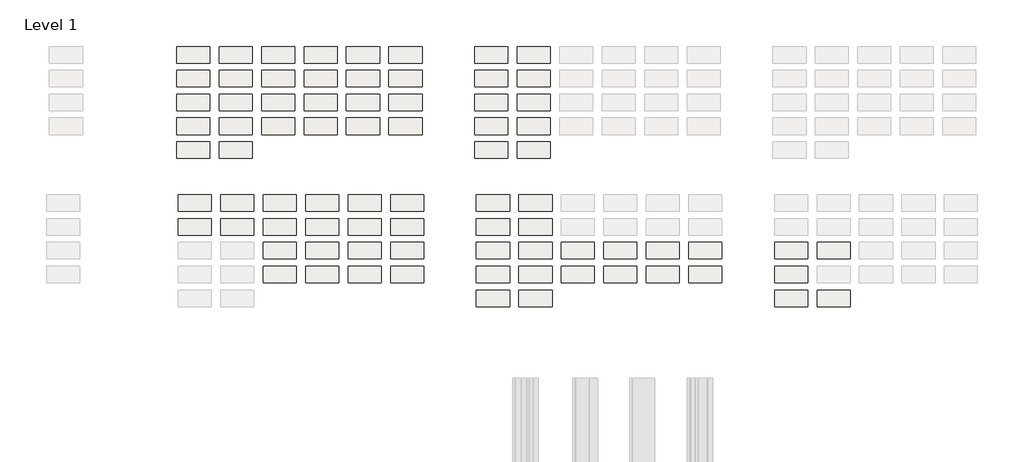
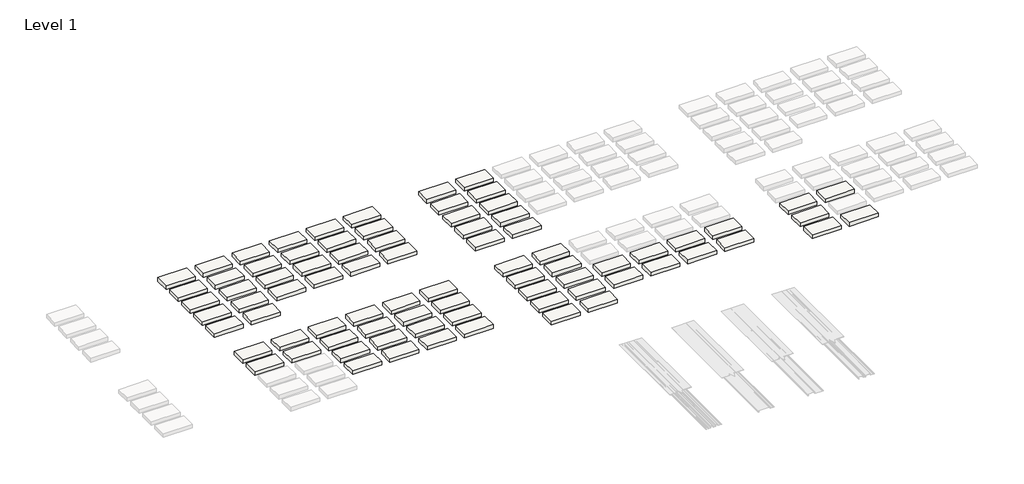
# One storey, part 2 of 3: 79 slabs.
"""IFC4 building model written with IfcOpenShell, lengths in millimetres."""

from ifc_helpers import new_model, si_unit, frame, origin, place, context, project, spatial, polyline, outline, extrude, element, save

model = new_model("IFC4")

# Units and contexts
model_context = context("Model", 3, world=origin())
ifc_project = project(units=[si_unit("LENGTHUNIT", "METRE", prefix="MILLI")], contexts=[model_context])

# Site, building, storey
site = spatial("IfcSite", under=ifc_project)
building = spatial("IfcBuilding", under=site)
storey = spatial("IfcBuildingStorey", under=building, Name="Level 1", Elevation=0.0)

# Slabs
placement = place(None, origin())
element("IfcSlab", 1, ObjectType="AEP Span Color Sample", at=placement, inside=storey, context=model_context, shape_type="SweptSolid", body=[
    extrude(outline(polyline([(1940.5339225, 7212.0976846), (1330.9339225, 7212.0976846), (1330.9339225, 7516.8976846), (1940.5339225, 7516.8976846), (1940.5339225, 7212.0976846)])), frame((0.0, 0.0, -79.375), z_axis=(0.0, 0.0, 1.0), x_axis=(1.0, 0.0, 0.0)), (0.0, 0.0, 1.0), 79.375),
])
element("IfcSlab", 2, ObjectType="AEP Span Color Sample", at=placement, inside=storey, context=model_context, shape_type="SweptSolid", body=[
    extrude(outline(polyline([(2721.5839225, 7212.0976846), (2111.9839225, 7212.0976846), (2111.9839225, 7516.8976846), (2721.5839225, 7516.8976846), (2721.5839225, 7212.0976846)])), frame((0.0, 0.0, -79.375), z_axis=(0.0, 0.0, 1.0), x_axis=(1.0, 0.0, 0.0)), (0.0, 0.0, 1.0), 79.375),
])
element("IfcSlab", 3, ObjectType="AEP Span Color Sample", at=placement, inside=storey, context=model_context, shape_type="SweptSolid", body=[
    extrude(outline(polyline([(3502.6339225, 7212.0976846), (2893.0339225, 7212.0976846), (2893.0339225, 7516.8976846), (3502.6339225, 7516.8976846), (3502.6339225, 7212.0976846)])), frame((0.0, 0.0, -79.375), z_axis=(0.0, 0.0, 1.0), x_axis=(1.0, 0.0, 0.0)), (0.0, 0.0, 1.0), 79.375),
])
element("IfcSlab", 4, ObjectType="AEP Span Color Sample", at=placement, inside=storey, context=model_context, shape_type="SweptSolid", body=[
    extrude(outline(polyline([(4283.6839225, 7212.0976846), (3674.0839225, 7212.0976846), (3674.0839225, 7516.8976846), (4283.6839225, 7516.8976846), (4283.6839225, 7212.0976846)])), frame((0.0, 0.0, -79.375), z_axis=(0.0, 0.0, 1.0), x_axis=(1.0, 0.0, 0.0)), (0.0, 0.0, 1.0), 79.375),
])
element("IfcSlab", 5, ObjectType="AEP Span Color Sample", at=placement, inside=storey, context=model_context, shape_type="SweptSolid", body=[
    extrude(outline(polyline([(5064.7339225, 7212.0976846), (4455.1339225, 7212.0976846), (4455.1339225, 7516.8976846), (5064.7339225, 7516.8976846), (5064.7339225, 7212.0976846)])), frame((0.0, 0.0, -79.375), z_axis=(0.0, 0.0, 1.0), x_axis=(1.0, 0.0, 0.0)), (0.0, 0.0, 1.0), 79.375),
])
element("IfcSlab", 6, ObjectType="AEP Span Color Sample", at=placement, inside=storey, context=model_context, shape_type="SweptSolid", body=[
    extrude(outline(polyline([(5845.7839225, 7212.0976846), (5236.1839225, 7212.0976846), (5236.1839225, 7516.8976846), (5845.7839225, 7516.8976846), (5845.7839225, 7212.0976846)])), frame((0.0, 0.0, -79.375), z_axis=(0.0, 0.0, 1.0), x_axis=(1.0, 0.0, 0.0)), (0.0, 0.0, 1.0), 79.375),
])
element("IfcSlab", 7, ObjectType="AEP Span Color Sample", at=placement, inside=storey, context=model_context, shape_type="SweptSolid", body=[
    extrude(outline(polyline([(1940.5339225, 6773.9476846), (1330.9339225, 6773.9476846), (1330.9339225, 7078.7476846), (1940.5339225, 7078.7476846), (1940.5339225, 6773.9476846)])), frame((0.0, 0.0, -79.375), z_axis=(0.0, 0.0, 1.0), x_axis=(1.0, 0.0, 0.0)), (0.0, 0.0, 1.0), 79.375),
])
element("IfcSlab", 8, ObjectType="AEP Span Color Sample", at=placement, inside=storey, context=model_context, shape_type="SweptSolid", body=[
    extrude(outline(polyline([(2721.5839225, 6773.9476846), (2111.9839225, 6773.9476846), (2111.9839225, 7078.7476846), (2721.5839225, 7078.7476846), (2721.5839225, 6773.9476846)])), frame((0.0, 0.0, -79.375), z_axis=(0.0, 0.0, 1.0), x_axis=(1.0, 0.0, 0.0)), (0.0, 0.0, 1.0), 79.375),
])
element("IfcSlab", 9, ObjectType="AEP Span Color Sample", at=placement, inside=storey, context=model_context, shape_type="SweptSolid", body=[
    extrude(outline(polyline([(3502.6339225, 6773.9476846), (2893.0339225, 6773.9476846), (2893.0339225, 7078.7476846), (3502.6339225, 7078.7476846), (3502.6339225, 6773.9476846)])), frame((0.0, 0.0, -79.375), z_axis=(0.0, 0.0, 1.0), x_axis=(1.0, 0.0, 0.0)), (0.0, 0.0, 1.0), 79.375),
])
element("IfcSlab", 10, ObjectType="AEP Span Color Sample", at=placement, inside=storey, context=model_context, shape_type="SweptSolid", body=[
    extrude(outline(polyline([(4283.6839225, 6773.9476846), (3674.0839225, 6773.9476846), (3674.0839225, 7078.7476846), (4283.6839225, 7078.7476846), (4283.6839225, 6773.9476846)])), frame((0.0, 0.0, -79.375), z_axis=(0.0, 0.0, 1.0), x_axis=(1.0, 0.0, 0.0)), (0.0, 0.0, 1.0), 79.375),
])
element("IfcSlab", 11, ObjectType="AEP Span Color Sample", at=placement, inside=storey, context=model_context, shape_type="SweptSolid", body=[
    extrude(outline(polyline([(5064.7339225, 6773.9476846), (4455.1339225, 6773.9476846), (4455.1339225, 7078.7476846), (5064.7339225, 7078.7476846), (5064.7339225, 6773.9476846)])), frame((0.0, 0.0, -79.375), z_axis=(0.0, 0.0, 1.0), x_axis=(1.0, 0.0, 0.0)), (0.0, 0.0, 1.0), 79.375),
])
element("IfcSlab", 12, ObjectType="AEP Span Color Sample", at=placement, inside=storey, context=model_context, shape_type="SweptSolid", body=[
    extrude(outline(polyline([(5845.7839225, 6773.9476846), (5236.1839225, 6773.9476846), (5236.1839225, 7078.7476846), (5845.7839225, 7078.7476846), (5845.7839225, 6773.9476846)])), frame((0.0, 0.0, -79.375), z_axis=(0.0, 0.0, 1.0), x_axis=(1.0, 0.0, 0.0)), (0.0, 0.0, 1.0), 79.375),
])
element("IfcSlab", 13, ObjectType="AEP Span Color Sample", at=placement, inside=storey, context=model_context, shape_type="SweptSolid", body=[
    extrude(outline(polyline([(1940.5339225, 6335.7976846), (1330.9339225, 6335.7976846), (1330.9339225, 6640.5976846), (1940.5339225, 6640.5976846), (1940.5339225, 6335.7976846)])), frame((0.0, 0.0, -79.375), z_axis=(0.0, 0.0, 1.0), x_axis=(1.0, 0.0, 0.0)), (0.0, 0.0, 1.0), 79.375),
])
element("IfcSlab", 14, ObjectType="AEP Span Color Sample", at=placement, inside=storey, context=model_context, shape_type="SweptSolid", body=[
    extrude(outline(polyline([(2721.5839225, 6335.7976846), (2111.9839225, 6335.7976846), (2111.9839225, 6640.5976846), (2721.5839225, 6640.5976846), (2721.5839225, 6335.7976846)])), frame((0.0, 0.0, -79.375), z_axis=(0.0, 0.0, 1.0), x_axis=(1.0, 0.0, 0.0)), (0.0, 0.0, 1.0), 79.375),
])
element("IfcSlab", 15, ObjectType="AEP Span Color Sample", at=placement, inside=storey, context=model_context, shape_type="SweptSolid", body=[
    extrude(outline(polyline([(3502.6339225, 6335.7976846), (2893.0339225, 6335.7976846), (2893.0339225, 6640.5976846), (3502.6339225, 6640.5976846), (3502.6339225, 6335.7976846)])), frame((0.0, 0.0, -79.375), z_axis=(0.0, 0.0, 1.0), x_axis=(1.0, 0.0, 0.0)), (0.0, 0.0, 1.0), 79.375),
])
element("IfcSlab", 16, ObjectType="AEP Span Color Sample", at=placement, inside=storey, context=model_context, shape_type="SweptSolid", body=[
    extrude(outline(polyline([(4283.6839225, 6335.7976846), (3674.0839225, 6335.7976846), (3674.0839225, 6640.5976846), (4283.6839225, 6640.5976846), (4283.6839225, 6335.7976846)])), frame((0.0, 0.0, -79.375), z_axis=(0.0, 0.0, 1.0), x_axis=(1.0, 0.0, 0.0)), (0.0, 0.0, 1.0), 79.375),
])
element("IfcSlab", 17, ObjectType="AEP Span Color Sample", at=placement, inside=storey, context=model_context, shape_type="SweptSolid", body=[
    extrude(outline(polyline([(5064.7339225, 6335.7976846), (4455.1339225, 6335.7976846), (4455.1339225, 6640.5976846), (5064.7339225, 6640.5976846), (5064.7339225, 6335.7976846)])), frame((0.0, 0.0, -79.375), z_axis=(0.0, 0.0, 1.0), x_axis=(1.0, 0.0, 0.0)), (0.0, 0.0, 1.0), 79.375),
])
element("IfcSlab", 18, ObjectType="AEP Span Color Sample", at=placement, inside=storey, context=model_context, shape_type="SweptSolid", body=[
    extrude(outline(polyline([(5845.7839225, 6335.7976846), (5236.1839225, 6335.7976846), (5236.1839225, 6640.5976846), (5845.7839225, 6640.5976846), (5845.7839225, 6335.7976846)])), frame((0.0, 0.0, -79.375), z_axis=(0.0, 0.0, 1.0), x_axis=(1.0, 0.0, 0.0)), (0.0, 0.0, 1.0), 79.375),
])
element("IfcSlab", 19, ObjectType="AEP Span Color Sample", at=placement, inside=storey, context=model_context, shape_type="SweptSolid", body=[
    extrude(outline(polyline([(1940.5339225, 5897.6476846), (1330.9339225, 5897.6476846), (1330.9339225, 6202.4476846), (1940.5339225, 6202.4476846), (1940.5339225, 5897.6476846)])), frame((0.0, 0.0, -79.375), z_axis=(0.0, 0.0, 1.0), x_axis=(1.0, 0.0, 0.0)), (0.0, 0.0, 1.0), 79.375),
])
element("IfcSlab", 20, ObjectType="AEP Span Color Sample", at=placement, inside=storey, context=model_context, shape_type="SweptSolid", body=[
    extrude(outline(polyline([(2721.5839225, 5897.6476846), (2111.9839225, 5897.6476846), (2111.9839225, 6202.4476846), (2721.5839225, 6202.4476846), (2721.5839225, 5897.6476846)])), frame((0.0, 0.0, -79.375), z_axis=(0.0, 0.0, 1.0), x_axis=(1.0, 0.0, 0.0)), (0.0, 0.0, 1.0), 79.375),
])
element("IfcSlab", 21, ObjectType="AEP Span Color Sample", at=placement, inside=storey, context=model_context, shape_type="SweptSolid", body=[
    extrude(outline(polyline([(3502.6339225, 5897.6476846), (2893.0339225, 5897.6476846), (2893.0339225, 6202.4476846), (3502.6339225, 6202.4476846), (3502.6339225, 5897.6476846)])), frame((0.0, 0.0, -79.375), z_axis=(0.0, 0.0, 1.0), x_axis=(1.0, 0.0, 0.0)), (0.0, 0.0, 1.0), 79.375),
])
element("IfcSlab", 22, ObjectType="AEP Span Color Sample", at=placement, inside=storey, context=model_context, shape_type="SweptSolid", body=[
    extrude(outline(polyline([(4283.6839225, 5897.6476846), (3674.0839225, 5897.6476846), (3674.0839225, 6202.4476846), (4283.6839225, 6202.4476846), (4283.6839225, 5897.6476846)])), frame((0.0, 0.0, -79.375), z_axis=(0.0, 0.0, 1.0), x_axis=(1.0, 0.0, 0.0)), (0.0, 0.0, 1.0), 79.375),
])
element("IfcSlab", 23, ObjectType="AEP Span Color Sample", at=placement, inside=storey, context=model_context, shape_type="SweptSolid", body=[
    extrude(outline(polyline([(5064.7339225, 5897.6476846), (4455.1339225, 5897.6476846), (4455.1339225, 6202.4476846), (5064.7339225, 6202.4476846), (5064.7339225, 5897.6476846)])), frame((0.0, 0.0, -79.375), z_axis=(0.0, 0.0, 1.0), x_axis=(1.0, 0.0, 0.0)), (0.0, 0.0, 1.0), 79.375),
])
element("IfcSlab", 24, ObjectType="AEP Span Color Sample", at=placement, inside=storey, context=model_context, shape_type="SweptSolid", body=[
    extrude(outline(polyline([(5845.7839225, 5897.6476846), (5236.1839225, 5897.6476846), (5236.1839225, 6202.4476846), (5845.7839225, 6202.4476846), (5845.7839225, 5897.6476846)])), frame((0.0, 0.0, -79.375), z_axis=(0.0, 0.0, 1.0), x_axis=(1.0, 0.0, 0.0)), (0.0, 0.0, 1.0), 79.375),
])
element("IfcSlab", 25, ObjectType="AEP Span Color Sample", at=placement, inside=storey, context=model_context, shape_type="SweptSolid", body=[
    extrude(outline(polyline([(1940.5339225, 5459.4976846), (1330.9339225, 5459.4976846), (1330.9339225, 5764.2976846), (1940.5339225, 5764.2976846), (1940.5339225, 5459.4976846)])), frame((0.0, 0.0, -79.375), z_axis=(0.0, 0.0, 1.0), x_axis=(1.0, 0.0, 0.0)), (0.0, 0.0, 1.0), 79.375),
])
element("IfcSlab", 26, ObjectType="AEP Span Color Sample", at=placement, inside=storey, context=model_context, shape_type="SweptSolid", body=[
    extrude(outline(polyline([(2721.5839225, 5459.4976846), (2111.9839225, 5459.4976846), (2111.9839225, 5764.2976846), (2721.5839225, 5764.2976846), (2721.5839225, 5459.4976846)])), frame((0.0, 0.0, -79.375), z_axis=(0.0, 0.0, 1.0), x_axis=(1.0, 0.0, 0.0)), (0.0, 0.0, 1.0), 79.375),
])
element("IfcSlab", 27, ObjectType="AEP Span Color Sample", at=placement, inside=storey, context=model_context, shape_type="SweptSolid", body=[
    extrude(outline(polyline([(7426.9339225, 7212.0976846), (6817.3339225, 7212.0976846), (6817.3339225, 7516.8976846), (7426.9339225, 7516.8976846), (7426.9339225, 7212.0976846)])), frame((0.0, 0.0, -79.375), z_axis=(0.0, 0.0, 1.0), x_axis=(1.0, 0.0, 0.0)), (0.0, 0.0, 1.0), 79.375),
])
element("IfcSlab", 28, ObjectType="AEP Span Color Sample", at=placement, inside=storey, context=model_context, shape_type="SweptSolid", body=[
    extrude(outline(polyline([(8207.9839225, 7212.0976846), (7598.3839225, 7212.0976846), (7598.3839225, 7516.8976846), (8207.9839225, 7516.8976846), (8207.9839225, 7212.0976846)])), frame((0.0, 0.0, -79.375), z_axis=(0.0, 0.0, 1.0), x_axis=(1.0, 0.0, 0.0)), (0.0, 0.0, 1.0), 79.375),
])
element("IfcSlab", 29, ObjectType="AEP Span Color Sample", at=placement, inside=storey, context=model_context, shape_type="SweptSolid", body=[
    extrude(outline(polyline([(7426.9339225, 6773.9476846), (6817.3339225, 6773.9476846), (6817.3339225, 7078.7476846), (7426.9339225, 7078.7476846), (7426.9339225, 6773.9476846)])), frame((0.0, 0.0, -79.375), z_axis=(0.0, 0.0, 1.0), x_axis=(1.0, 0.0, 0.0)), (0.0, 0.0, 1.0), 79.375),
])
element("IfcSlab", 30, ObjectType="AEP Span Color Sample", at=placement, inside=storey, context=model_context, shape_type="SweptSolid", body=[
    extrude(outline(polyline([(8207.9839225, 6773.9476846), (7598.3839225, 6773.9476846), (7598.3839225, 7078.7476846), (8207.9839225, 7078.7476846), (8207.9839225, 6773.9476846)])), frame((0.0, 0.0, -79.375), z_axis=(0.0, 0.0, 1.0), x_axis=(1.0, 0.0, 0.0)), (0.0, 0.0, 1.0), 79.375),
])
element("IfcSlab", 31, ObjectType="AEP Span Color Sample", at=placement, inside=storey, context=model_context, shape_type="SweptSolid", body=[
    extrude(outline(polyline([(7426.9339225, 6335.7976846), (6817.3339225, 6335.7976846), (6817.3339225, 6640.5976846), (7426.9339225, 6640.5976846), (7426.9339225, 6335.7976846)])), frame((0.0, 0.0, -79.375), z_axis=(0.0, 0.0, 1.0), x_axis=(1.0, 0.0, 0.0)), (0.0, 0.0, 1.0), 79.375),
])
element("IfcSlab", 32, ObjectType="AEP Span Color Sample", at=placement, inside=storey, context=model_context, shape_type="SweptSolid", body=[
    extrude(outline(polyline([(8207.9839225, 6335.7976846), (7598.3839225, 6335.7976846), (7598.3839225, 6640.5976846), (8207.9839225, 6640.5976846), (8207.9839225, 6335.7976846)])), frame((0.0, 0.0, -79.375), z_axis=(0.0, 0.0, 1.0), x_axis=(1.0, 0.0, 0.0)), (0.0, 0.0, 1.0), 79.375),
])
element("IfcSlab", 33, ObjectType="AEP Span Color Sample", at=placement, inside=storey, context=model_context, shape_type="SweptSolid", body=[
    extrude(outline(polyline([(7426.9339225, 5897.6476846), (6817.3339225, 5897.6476846), (6817.3339225, 6202.4476846), (7426.9339225, 6202.4476846), (7426.9339225, 5897.6476846)])), frame((0.0, 0.0, -79.375), z_axis=(0.0, 0.0, 1.0), x_axis=(1.0, 0.0, 0.0)), (0.0, 0.0, 1.0), 79.375),
])
element("IfcSlab", 34, ObjectType="AEP Span Color Sample", at=placement, inside=storey, context=model_context, shape_type="SweptSolid", body=[
    extrude(outline(polyline([(8207.9839225, 5897.6476846), (7598.3839225, 5897.6476846), (7598.3839225, 6202.4476846), (8207.9839225, 6202.4476846), (8207.9839225, 5897.6476846)])), frame((0.0, 0.0, -79.375), z_axis=(0.0, 0.0, 1.0), x_axis=(1.0, 0.0, 0.0)), (0.0, 0.0, 1.0), 79.375),
])
element("IfcSlab", 35, ObjectType="AEP Span Color Sample", at=placement, inside=storey, context=model_context, shape_type="SweptSolid", body=[
    extrude(outline(polyline([(7426.9339225, 5459.4976846), (6817.3339225, 5459.4976846), (6817.3339225, 5764.2976846), (7426.9339225, 5764.2976846), (7426.9339225, 5459.4976846)])), frame((0.0, 0.0, -79.375), z_axis=(0.0, 0.0, 1.0), x_axis=(1.0, 0.0, 0.0)), (0.0, 0.0, 1.0), 79.375),
])
element("IfcSlab", 36, ObjectType="AEP Span Color Sample", at=placement, inside=storey, context=model_context, shape_type="SweptSolid", body=[
    extrude(outline(polyline([(8207.9839225, 5459.4976846), (7598.3839225, 5459.4976846), (7598.3839225, 5764.2976846), (8207.9839225, 5764.2976846), (8207.9839225, 5459.4976846)])), frame((0.0, 0.0, -79.375), z_axis=(0.0, 0.0, 1.0), x_axis=(1.0, 0.0, 0.0)), (0.0, 0.0, 1.0), 79.375),
])
element("IfcSlab", 37, ObjectType="AEP Span Color Sample", at=placement, inside=storey, context=model_context, shape_type="SweptSolid", body=[
    extrude(outline(polyline([(1970.7268399, 4483.7993148), (1361.1268399, 4483.7993148), (1361.1268399, 4788.5993148), (1970.7268399, 4788.5993148), (1970.7268399, 4483.7993148)])), frame((0.0, 0.0, -79.375), z_axis=(0.0, 0.0, 1.0), x_axis=(1.0, 0.0, 0.0)), (0.0, 0.0, 1.0), 79.375),
])
element("IfcSlab", 38, ObjectType="AEP Span Color Sample", at=placement, inside=storey, context=model_context, shape_type="SweptSolid", body=[
    extrude(outline(polyline([(2751.7768399, 4483.7993148), (2142.1768399, 4483.7993148), (2142.1768399, 4788.5993148), (2751.7768399, 4788.5993148), (2751.7768399, 4483.7993148)])), frame((0.0, 0.0, -79.375), z_axis=(0.0, 0.0, 1.0), x_axis=(1.0, 0.0, 0.0)), (0.0, 0.0, 1.0), 79.375),
])
element("IfcSlab", 39, ObjectType="AEP Span Color Sample", at=placement, inside=storey, context=model_context, shape_type="SweptSolid", body=[
    extrude(outline(polyline([(3532.8268399, 4483.7993148), (2923.2268399, 4483.7993148), (2923.2268399, 4788.5993148), (3532.8268399, 4788.5993148), (3532.8268399, 4483.7993148)])), frame((0.0, 0.0, -79.375), z_axis=(0.0, 0.0, 1.0), x_axis=(1.0, 0.0, 0.0)), (0.0, 0.0, 1.0), 79.375),
])
element("IfcSlab", 40, ObjectType="AEP Span Color Sample", at=placement, inside=storey, context=model_context, shape_type="SweptSolid", body=[
    extrude(outline(polyline([(4313.8768399, 4483.7993148), (3704.2768399, 4483.7993148), (3704.2768399, 4788.5993148), (4313.8768399, 4788.5993148), (4313.8768399, 4483.7993148)])), frame((0.0, 0.0, -79.375), z_axis=(0.0, 0.0, 1.0), x_axis=(1.0, 0.0, 0.0)), (0.0, 0.0, 1.0), 79.375),
])
element("IfcSlab", 41, ObjectType="AEP Span Color Sample", at=placement, inside=storey, context=model_context, shape_type="SweptSolid", body=[
    extrude(outline(polyline([(5094.9268399, 4483.7993148), (4485.3268399, 4483.7993148), (4485.3268399, 4788.5993148), (5094.9268399, 4788.5993148), (5094.9268399, 4483.7993148)])), frame((0.0, 0.0, -79.375), z_axis=(0.0, 0.0, 1.0), x_axis=(1.0, 0.0, 0.0)), (0.0, 0.0, 1.0), 79.375),
])
element("IfcSlab", 42, ObjectType="AEP Span Color Sample", at=placement, inside=storey, context=model_context, shape_type="SweptSolid", body=[
    extrude(outline(polyline([(5875.9768399, 4483.7993148), (5266.3768399, 4483.7993148), (5266.3768399, 4788.5993148), (5875.9768399, 4788.5993148), (5875.9768399, 4483.7993148)])), frame((0.0, 0.0, -79.375), z_axis=(0.0, 0.0, 1.0), x_axis=(1.0, 0.0, 0.0)), (0.0, 0.0, 1.0), 79.375),
])
element("IfcSlab", 43, ObjectType="AEP Span Color Sample", at=placement, inside=storey, context=model_context, shape_type="SweptSolid", body=[
    extrude(outline(polyline([(1970.7268399, 4045.6493148), (1361.1268399, 4045.6493148), (1361.1268399, 4350.4493148), (1970.7268399, 4350.4493148), (1970.7268399, 4045.6493148)])), frame((0.0, 0.0, -79.375), z_axis=(0.0, 0.0, 1.0), x_axis=(1.0, 0.0, 0.0)), (0.0, 0.0, 1.0), 79.375),
])
element("IfcSlab", 44, ObjectType="AEP Span Color Sample", at=placement, inside=storey, context=model_context, shape_type="SweptSolid", body=[
    extrude(outline(polyline([(2751.7768399, 4045.6493148), (2142.1768399, 4045.6493148), (2142.1768399, 4350.4493148), (2751.7768399, 4350.4493148), (2751.7768399, 4045.6493148)])), frame((0.0, 0.0, -79.375), z_axis=(0.0, 0.0, 1.0), x_axis=(1.0, 0.0, 0.0)), (0.0, 0.0, 1.0), 79.375),
])
element("IfcSlab", 45, ObjectType="AEP Span Color Sample", at=placement, inside=storey, context=model_context, shape_type="SweptSolid", body=[
    extrude(outline(polyline([(3532.8268399, 4045.6493148), (2923.2268399, 4045.6493148), (2923.2268399, 4350.4493148), (3532.8268399, 4350.4493148), (3532.8268399, 4045.6493148)])), frame((0.0, 0.0, -79.375), z_axis=(0.0, 0.0, 1.0), x_axis=(1.0, 0.0, 0.0)), (0.0, 0.0, 1.0), 79.375),
])
element("IfcSlab", 46, ObjectType="AEP Span Color Sample", at=placement, inside=storey, context=model_context, shape_type="SweptSolid", body=[
    extrude(outline(polyline([(4313.8768399, 4045.6493148), (3704.2768399, 4045.6493148), (3704.2768399, 4350.4493148), (4313.8768399, 4350.4493148), (4313.8768399, 4045.6493148)])), frame((0.0, 0.0, -79.375), z_axis=(0.0, 0.0, 1.0), x_axis=(1.0, 0.0, 0.0)), (0.0, 0.0, 1.0), 79.375),
])
element("IfcSlab", 47, ObjectType="AEP Span Color Sample", at=placement, inside=storey, context=model_context, shape_type="SweptSolid", body=[
    extrude(outline(polyline([(5094.9268399, 4045.6493148), (4485.3268399, 4045.6493148), (4485.3268399, 4350.4493148), (5094.9268399, 4350.4493148), (5094.9268399, 4045.6493148)])), frame((0.0, 0.0, -79.375), z_axis=(0.0, 0.0, 1.0), x_axis=(1.0, 0.0, 0.0)), (0.0, 0.0, 1.0), 79.375),
])
element("IfcSlab", 48, ObjectType="AEP Span Color Sample", at=placement, inside=storey, context=model_context, shape_type="SweptSolid", body=[
    extrude(outline(polyline([(5875.9768399, 4045.6493148), (5266.3768399, 4045.6493148), (5266.3768399, 4350.4493148), (5875.9768399, 4350.4493148), (5875.9768399, 4045.6493148)])), frame((0.0, 0.0, -79.375), z_axis=(0.0, 0.0, 1.0), x_axis=(1.0, 0.0, 0.0)), (0.0, 0.0, 1.0), 79.375),
])
element("IfcSlab", 49, ObjectType="AEP Span Color Sample", at=placement, inside=storey, context=model_context, shape_type="SweptSolid", body=[
    extrude(outline(polyline([(3532.8268399, 3607.4993148), (2923.2268399, 3607.4993148), (2923.2268399, 3912.2993148), (3532.8268399, 3912.2993148), (3532.8268399, 3607.4993148)])), frame((0.0, 0.0, -79.375), z_axis=(0.0, 0.0, 1.0), x_axis=(1.0, 0.0, 0.0)), (0.0, 0.0, 1.0), 79.375),
])
element("IfcSlab", 50, ObjectType="AEP Span Color Sample", at=placement, inside=storey, context=model_context, shape_type="SweptSolid", body=[
    extrude(outline(polyline([(4313.8768399, 3607.4993148), (3704.2768399, 3607.4993148), (3704.2768399, 3912.2993148), (4313.8768399, 3912.2993148), (4313.8768399, 3607.4993148)])), frame((0.0, 0.0, -79.375), z_axis=(0.0, 0.0, 1.0), x_axis=(1.0, 0.0, 0.0)), (0.0, 0.0, 1.0), 79.375),
])
element("IfcSlab", 51, ObjectType="AEP Span Color Sample", at=placement, inside=storey, context=model_context, shape_type="SweptSolid", body=[
    extrude(outline(polyline([(5094.9268399, 3607.4993148), (4485.3268399, 3607.4993148), (4485.3268399, 3912.2993148), (5094.9268399, 3912.2993148), (5094.9268399, 3607.4993148)])), frame((0.0, 0.0, -79.375), z_axis=(0.0, 0.0, 1.0), x_axis=(1.0, 0.0, 0.0)), (0.0, 0.0, 1.0), 79.375),
])
element("IfcSlab", 52, ObjectType="AEP Span Color Sample", at=placement, inside=storey, context=model_context, shape_type="SweptSolid", body=[
    extrude(outline(polyline([(5875.9768399, 3607.4993148), (5266.3768399, 3607.4993148), (5266.3768399, 3912.2993148), (5875.9768399, 3912.2993148), (5875.9768399, 3607.4993148)])), frame((0.0, 0.0, -79.375), z_axis=(0.0, 0.0, 1.0), x_axis=(1.0, 0.0, 0.0)), (0.0, 0.0, 1.0), 79.375),
])
element("IfcSlab", 53, ObjectType="AEP Span Color Sample", at=placement, inside=storey, context=model_context, shape_type="SweptSolid", body=[
    extrude(outline(polyline([(3532.8268399, 3169.3493148), (2923.2268399, 3169.3493148), (2923.2268399, 3474.1493148), (3532.8268399, 3474.1493148), (3532.8268399, 3169.3493148)])), frame((0.0, 0.0, -79.375), z_axis=(0.0, 0.0, 1.0), x_axis=(1.0, 0.0, 0.0)), (0.0, 0.0, 1.0), 79.375),
])
element("IfcSlab", 54, ObjectType="AEP Span Color Sample", at=placement, inside=storey, context=model_context, shape_type="SweptSolid", body=[
    extrude(outline(polyline([(4313.8768399, 3169.3493148), (3704.2768399, 3169.3493148), (3704.2768399, 3474.1493148), (4313.8768399, 3474.1493148), (4313.8768399, 3169.3493148)])), frame((0.0, 0.0, -79.375), z_axis=(0.0, 0.0, 1.0), x_axis=(1.0, 0.0, 0.0)), (0.0, 0.0, 1.0), 79.375),
])
element("IfcSlab", 55, ObjectType="AEP Span Color Sample", at=placement, inside=storey, context=model_context, shape_type="SweptSolid", body=[
    extrude(outline(polyline([(5094.9268399, 3169.3493148), (4485.3268399, 3169.3493148), (4485.3268399, 3474.1493148), (5094.9268399, 3474.1493148), (5094.9268399, 3169.3493148)])), frame((0.0, 0.0, -79.375), z_axis=(0.0, 0.0, 1.0), x_axis=(1.0, 0.0, 0.0)), (0.0, 0.0, 1.0), 79.375),
])
element("IfcSlab", 56, ObjectType="AEP Span Color Sample", at=placement, inside=storey, context=model_context, shape_type="SweptSolid", body=[
    extrude(outline(polyline([(5875.9768399, 3169.3493148), (5266.3768399, 3169.3493148), (5266.3768399, 3474.1493148), (5875.9768399, 3474.1493148), (5875.9768399, 3169.3493148)])), frame((0.0, 0.0, -79.375), z_axis=(0.0, 0.0, 1.0), x_axis=(1.0, 0.0, 0.0)), (0.0, 0.0, 1.0), 79.375),
])
element("IfcSlab", 57, ObjectType="AEP Span Color Sample", at=placement, inside=storey, context=model_context, shape_type="SweptSolid", body=[
    extrude(outline(polyline([(7457.1268399, 4483.7993148), (6847.5268399, 4483.7993148), (6847.5268399, 4788.5993148), (7457.1268399, 4788.5993148), (7457.1268399, 4483.7993148)])), frame((0.0, 0.0, -79.375), z_axis=(0.0, 0.0, 1.0), x_axis=(1.0, 0.0, 0.0)), (0.0, 0.0, 1.0), 79.375),
])
element("IfcSlab", 58, ObjectType="AEP Span Color Sample", at=placement, inside=storey, context=model_context, shape_type="SweptSolid", body=[
    extrude(outline(polyline([(8238.1768399, 4483.7993148), (7628.5768399, 4483.7993148), (7628.5768399, 4788.5993148), (8238.1768399, 4788.5993148), (8238.1768399, 4483.7993148)])), frame((0.0, 0.0, -79.375), z_axis=(0.0, 0.0, 1.0), x_axis=(1.0, 0.0, 0.0)), (0.0, 0.0, 1.0), 79.375),
])
element("IfcSlab", 59, ObjectType="AEP Span Color Sample", at=placement, inside=storey, context=model_context, shape_type="SweptSolid", body=[
    extrude(outline(polyline([(7457.1268399, 4045.6493148), (6847.5268399, 4045.6493148), (6847.5268399, 4350.4493148), (7457.1268399, 4350.4493148), (7457.1268399, 4045.6493148)])), frame((0.0, 0.0, -79.375), z_axis=(0.0, 0.0, 1.0), x_axis=(1.0, 0.0, 0.0)), (0.0, 0.0, 1.0), 79.375),
])
element("IfcSlab", 60, ObjectType="AEP Span Color Sample", at=placement, inside=storey, context=model_context, shape_type="SweptSolid", body=[
    extrude(outline(polyline([(8238.1768399, 4045.6493148), (7628.5768399, 4045.6493148), (7628.5768399, 4350.4493148), (8238.1768399, 4350.4493148), (8238.1768399, 4045.6493148)])), frame((0.0, 0.0, -79.375), z_axis=(0.0, 0.0, 1.0), x_axis=(1.0, 0.0, 0.0)), (0.0, 0.0, 1.0), 79.375),
])
element("IfcSlab", 61, ObjectType="AEP Span Color Sample", at=placement, inside=storey, context=model_context, shape_type="SweptSolid", body=[
    extrude(outline(polyline([(7457.1268399, 3607.4993148), (6847.5268399, 3607.4993148), (6847.5268399, 3912.2993148), (7457.1268399, 3912.2993148), (7457.1268399, 3607.4993148)])), frame((0.0, 0.0, -79.375), z_axis=(0.0, 0.0, 1.0), x_axis=(1.0, 0.0, 0.0)), (0.0, 0.0, 1.0), 79.375),
])
element("IfcSlab", 62, ObjectType="AEP Span Color Sample", at=placement, inside=storey, context=model_context, shape_type="SweptSolid", body=[
    extrude(outline(polyline([(8238.1768399, 3607.4993148), (7628.5768399, 3607.4993148), (7628.5768399, 3912.2993148), (8238.1768399, 3912.2993148), (8238.1768399, 3607.4993148)])), frame((0.0, 0.0, -79.375), z_axis=(0.0, 0.0, 1.0), x_axis=(1.0, 0.0, 0.0)), (0.0, 0.0, 1.0), 79.375),
])
element("IfcSlab", 63, ObjectType="AEP Span Color Sample", at=placement, inside=storey, context=model_context, shape_type="SweptSolid", body=[
    extrude(outline(polyline([(9019.2268399, 3607.4993148), (8409.6268399, 3607.4993148), (8409.6268399, 3912.2993148), (9019.2268399, 3912.2993148), (9019.2268399, 3607.4993148)])), frame((0.0, 0.0, -79.375), z_axis=(0.0, 0.0, 1.0), x_axis=(1.0, 0.0, 0.0)), (0.0, 0.0, 1.0), 79.375),
])
element("IfcSlab", 64, ObjectType="AEP Span Color Sample", at=placement, inside=storey, context=model_context, shape_type="SweptSolid", body=[
    extrude(outline(polyline([(9800.2768399, 3607.4993148), (9190.6768399, 3607.4993148), (9190.6768399, 3912.2993148), (9800.2768399, 3912.2993148), (9800.2768399, 3607.4993148)])), frame((0.0, 0.0, -79.375), z_axis=(0.0, 0.0, 1.0), x_axis=(1.0, 0.0, 0.0)), (0.0, 0.0, 1.0), 79.375),
])
element("IfcSlab", 65, ObjectType="AEP Span Color Sample", at=placement, inside=storey, context=model_context, shape_type="SweptSolid", body=[
    extrude(outline(polyline([(10581.3268399, 3607.4993148), (9971.7268399, 3607.4993148), (9971.7268399, 3912.2993148), (10581.3268399, 3912.2993148), (10581.3268399, 3607.4993148)])), frame((0.0, 0.0, -79.375), z_axis=(0.0, 0.0, 1.0), x_axis=(1.0, 0.0, 0.0)), (0.0, 0.0, 1.0), 79.375),
])
element("IfcSlab", 66, ObjectType="AEP Span Color Sample", at=placement, inside=storey, context=model_context, shape_type="SweptSolid", body=[
    extrude(outline(polyline([(11362.3768399, 3607.4993148), (10752.7768399, 3607.4993148), (10752.7768399, 3912.2993148), (11362.3768399, 3912.2993148), (11362.3768399, 3607.4993148)])), frame((0.0, 0.0, -79.375), z_axis=(0.0, 0.0, 1.0), x_axis=(1.0, 0.0, 0.0)), (0.0, 0.0, 1.0), 79.375),
])
element("IfcSlab", 67, ObjectType="AEP Span Color Sample", at=placement, inside=storey, context=model_context, shape_type="SweptSolid", body=[
    extrude(outline(polyline([(7457.1268399, 3169.3493148), (6847.5268399, 3169.3493148), (6847.5268399, 3474.1493148), (7457.1268399, 3474.1493148), (7457.1268399, 3169.3493148)])), frame((0.0, 0.0, -79.375), z_axis=(0.0, 0.0, 1.0), x_axis=(1.0, 0.0, 0.0)), (0.0, 0.0, 1.0), 79.375),
])
element("IfcSlab", 68, ObjectType="AEP Span Color Sample", at=placement, inside=storey, context=model_context, shape_type="SweptSolid", body=[
    extrude(outline(polyline([(8238.1768399, 3169.3493148), (7628.5768399, 3169.3493148), (7628.5768399, 3474.1493148), (8238.1768399, 3474.1493148), (8238.1768399, 3169.3493148)])), frame((0.0, 0.0, -79.375), z_axis=(0.0, 0.0, 1.0), x_axis=(1.0, 0.0, 0.0)), (0.0, 0.0, 1.0), 79.375),
])
element("IfcSlab", 69, ObjectType="AEP Span Color Sample", at=placement, inside=storey, context=model_context, shape_type="SweptSolid", body=[
    extrude(outline(polyline([(9019.2268399, 3169.3493148), (8409.6268399, 3169.3493148), (8409.6268399, 3474.1493148), (9019.2268399, 3474.1493148), (9019.2268399, 3169.3493148)])), frame((0.0, 0.0, -79.375), z_axis=(0.0, 0.0, 1.0), x_axis=(1.0, 0.0, 0.0)), (0.0, 0.0, 1.0), 79.375),
])
element("IfcSlab", 70, ObjectType="AEP Span Color Sample", at=placement, inside=storey, context=model_context, shape_type="SweptSolid", body=[
    extrude(outline(polyline([(9800.2768399, 3169.3493148), (9190.6768399, 3169.3493148), (9190.6768399, 3474.1493148), (9800.2768399, 3474.1493148), (9800.2768399, 3169.3493148)])), frame((0.0, 0.0, -79.375), z_axis=(0.0, 0.0, 1.0), x_axis=(1.0, 0.0, 0.0)), (0.0, 0.0, 1.0), 79.375),
])
element("IfcSlab", 71, ObjectType="AEP Span Color Sample", at=placement, inside=storey, context=model_context, shape_type="SweptSolid", body=[
    extrude(outline(polyline([(10581.3268399, 3169.3493148), (9971.7268399, 3169.3493148), (9971.7268399, 3474.1493148), (10581.3268399, 3474.1493148), (10581.3268399, 3169.3493148)])), frame((0.0, 0.0, -79.375), z_axis=(0.0, 0.0, 1.0), x_axis=(1.0, 0.0, 0.0)), (0.0, 0.0, 1.0), 79.375),
])
element("IfcSlab", 72, ObjectType="AEP Span Color Sample", at=placement, inside=storey, context=model_context, shape_type="SweptSolid", body=[
    extrude(outline(polyline([(11362.3768399, 3169.3493148), (10752.7768399, 3169.3493148), (10752.7768399, 3474.1493148), (11362.3768399, 3474.1493148), (11362.3768399, 3169.3493148)])), frame((0.0, 0.0, -79.375), z_axis=(0.0, 0.0, 1.0), x_axis=(1.0, 0.0, 0.0)), (0.0, 0.0, 1.0), 79.375),
])
element("IfcSlab", 73, ObjectType="AEP Span Color Sample", at=placement, inside=storey, context=model_context, shape_type="SweptSolid", body=[
    extrude(outline(polyline([(7457.1268399, 2731.1993148), (6847.5268399, 2731.1993148), (6847.5268399, 3035.9993148), (7457.1268399, 3035.9993148), (7457.1268399, 2731.1993148)])), frame((0.0, 0.0, -79.375), z_axis=(0.0, 0.0, 1.0), x_axis=(1.0, 0.0, 0.0)), (0.0, 0.0, 1.0), 79.375),
])
element("IfcSlab", 74, ObjectType="AEP Span Color Sample", at=placement, inside=storey, context=model_context, shape_type="SweptSolid", body=[
    extrude(outline(polyline([(8238.1768399, 2731.1993148), (7628.5768399, 2731.1993148), (7628.5768399, 3035.9993148), (8238.1768399, 3035.9993148), (8238.1768399, 2731.1993148)])), frame((0.0, 0.0, -79.375), z_axis=(0.0, 0.0, 1.0), x_axis=(1.0, 0.0, 0.0)), (0.0, 0.0, 1.0), 79.375),
])
element("IfcSlab", 75, ObjectType="AEP Span Color Sample", at=placement, inside=storey, context=model_context, shape_type="SweptSolid", body=[
    extrude(outline(polyline([(12943.5268399, 3607.4993148), (12333.9268399, 3607.4993148), (12333.9268399, 3912.2993148), (12943.5268399, 3912.2993148), (12943.5268399, 3607.4993148)])), frame((0.0, 0.0, -79.375), z_axis=(0.0, 0.0, 1.0), x_axis=(1.0, 0.0, 0.0)), (0.0, 0.0, 1.0), 79.375),
])
element("IfcSlab", 76, ObjectType="AEP Span Color Sample", at=placement, inside=storey, context=model_context, shape_type="SweptSolid", body=[
    extrude(outline(polyline([(13724.5768399, 3607.4993148), (13114.9768399, 3607.4993148), (13114.9768399, 3912.2993148), (13724.5768399, 3912.2993148), (13724.5768399, 3607.4993148)])), frame((0.0, 0.0, -79.375), z_axis=(0.0, 0.0, 1.0), x_axis=(1.0, 0.0, 0.0)), (0.0, 0.0, 1.0), 79.375),
])
element("IfcSlab", 77, ObjectType="AEP Span Color Sample", at=placement, inside=storey, context=model_context, shape_type="SweptSolid", body=[
    extrude(outline(polyline([(12943.5268399, 3169.3493148), (12333.9268399, 3169.3493148), (12333.9268399, 3474.1493148), (12943.5268399, 3474.1493148), (12943.5268399, 3169.3493148)])), frame((0.0, 0.0, -79.375), z_axis=(0.0, 0.0, 1.0), x_axis=(1.0, 0.0, 0.0)), (0.0, 0.0, 1.0), 79.375),
])
element("IfcSlab", 78, ObjectType="AEP Span Color Sample", at=placement, inside=storey, context=model_context, shape_type="SweptSolid", body=[
    extrude(outline(polyline([(12943.5268399, 2731.1993148), (12333.9268399, 2731.1993148), (12333.9268399, 3035.9993148), (12943.5268399, 3035.9993148), (12943.5268399, 2731.1993148)])), frame((0.0, 0.0, -79.375), z_axis=(0.0, 0.0, 1.0), x_axis=(1.0, 0.0, 0.0)), (0.0, 0.0, 1.0), 79.375),
])
element("IfcSlab", 79, ObjectType="AEP Span Color Sample", at=placement, inside=storey, context=model_context, shape_type="SweptSolid", body=[
    extrude(outline(polyline([(13724.5768399, 2731.1993148), (13114.9768399, 2731.1993148), (13114.9768399, 3035.9993148), (13724.5768399, 3035.9993148), (13724.5768399, 2731.1993148)])), frame((0.0, 0.0, -79.375), z_axis=(0.0, 0.0, 1.0), x_axis=(1.0, 0.0, 0.0)), (0.0, 0.0, 1.0), 79.375),
])

save(model, "model.ifc")
